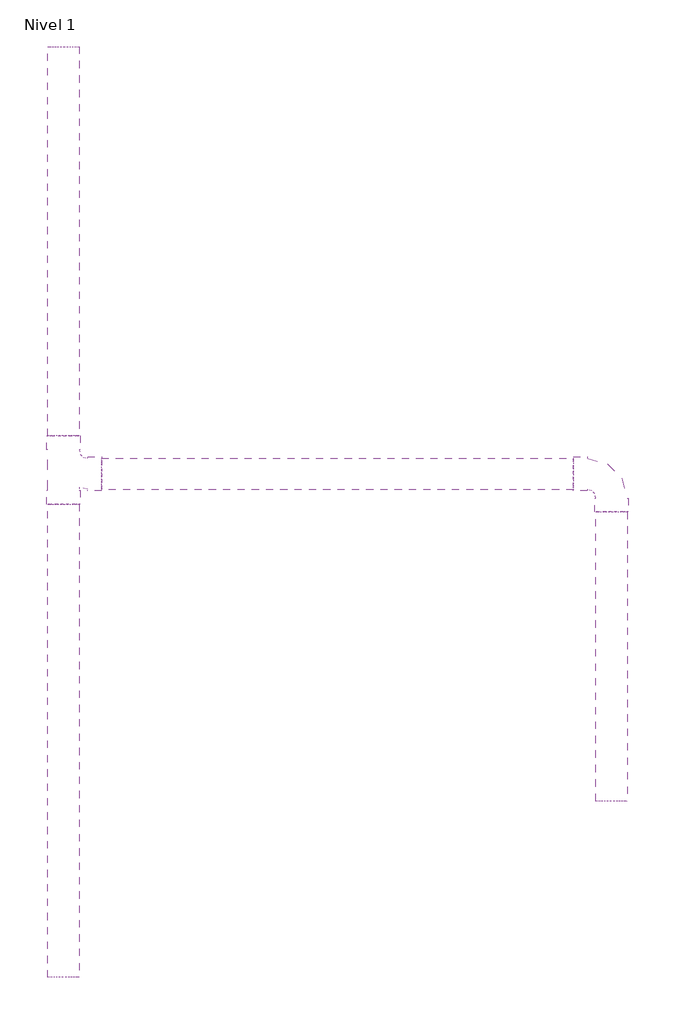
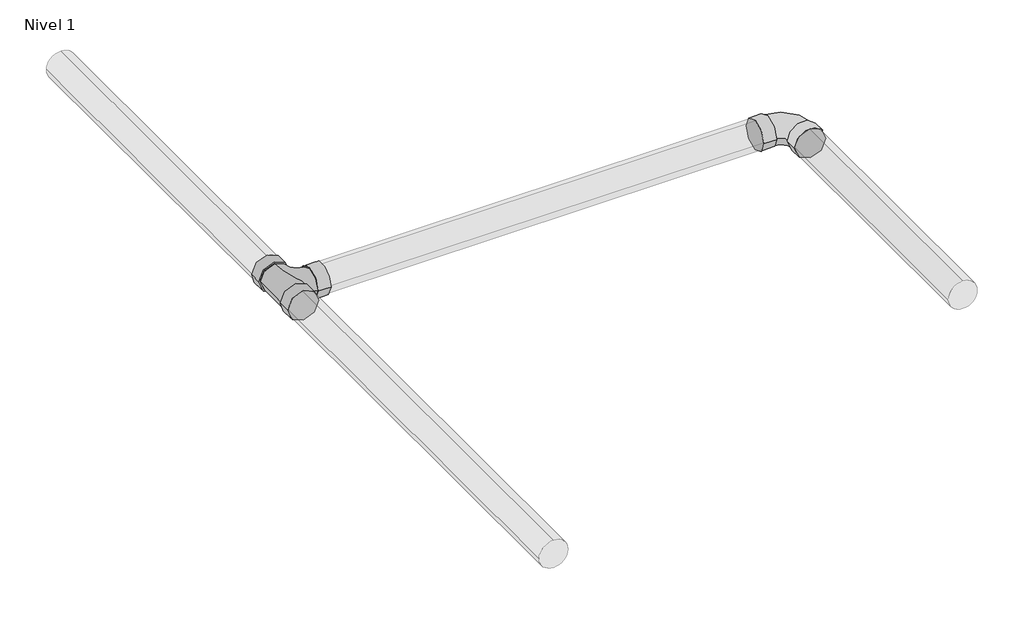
# One storey: 4 pipe segments, 2 pipe fittings.
"""IFC4 building model written with IfcOpenShell, lengths in millimetres."""

from ifc_helpers import new_model, si_unit, point, frame, frame_2d, origin, place, context, project, spatial, circle_curve, trimmed, segment, composite_curve, outline, extrude, transform, mapped, element, save
from components import m_codo_pvc_serie_40_dwv_fd45ffc9, m_sanitario_con_te_pvc_serie_40_dwv_ccfb513b

model = new_model("IFC4")

# Units and contexts
model_context = context("Model", 3, world=origin())
ifc_project = project(units=[si_unit("LENGTHUNIT", "METRE", prefix="MILLI")], contexts=[model_context])

# Site, building, storey
site = spatial("IfcSite", under=ifc_project)
building = spatial("IfcBuilding", under=site)
storey = spatial("IfcBuildingStorey", under=building, Name="Nivel 1", Elevation=0.0)

# Pipe fittings
placement = place(None, origin())
m_codo_pvc_serie_40_dwv_shape = m_codo_pvc_serie_40_dwv_fd45ffc9(model_context)
element("IfcPipeFitting", 1, ObjectType="M_Codo - PVC - Serie 40 - DWV : Estándar", at=placement, inside=storey, context=model_context, shape_type="MappedRepresentation", body=[
    mapped(m_codo_pvc_serie_40_dwv_shape, transform((1003.4756098, 1791.5462995, 2750.0), x_axis=(0.0, 1.0, 0.0), y_axis=(-1.0, 0.0, 0.0), z_axis=(0.0, 0.0, 1.0))),
])
m_sanitario_con_te_pvc_serie_40_dwv_shape = m_sanitario_con_te_pvc_serie_40_dwv_ccfb513b(model_context)
element("IfcPipeFitting", 2, ObjectType="M_Sanitario con te - PVC - Serie 40 - DWV : Estándar", at=placement, inside=storey, context=model_context, shape_type="MappedRepresentation", body=[
    mapped(m_sanitario_con_te_pvc_serie_40_dwv_shape, transform((-1176.5243902, 1791.5462995, 2750.0), x_axis=(0.0, -1.0, 0.0), y_axis=(-1.0, 0.0, 0.0), z_axis=(0.0, 0.0, -1.0))),
])

# Pipe segments
element("IfcPipeSegment", 3, ObjectType="PVC", at=placement, inside=storey, context=model_context, shape_type="SweptSolid", body=[
    extrude(outline(composite_curve([segment(trimmed(circle_curve(frame_2d((2750.0, -1176.5243902)), 62.865), [point((2750.0, -1113.6593902))], [point((2812.865, -1176.5243902))], False, "CARTESIAN"), True, "CONTINUOUS"), segment(trimmed(circle_curve(frame_2d((2750.0, -1176.5243902)), 62.865), [point((2812.865, -1176.5243902))], [point((2750.0, -1239.3893902))], False, "CARTESIAN"), True, "CONTINUOUS"), segment(trimmed(circle_curve(frame_2d((2750.0, -1176.5243902)), 62.865), [point((2750.0, -1239.3893902))], [point((2687.135, -1176.5243902))], False, "CARTESIAN"), True, "CONTINUOUS"), segment(trimmed(circle_curve(frame_2d((2750.0, -1176.5243902)), 62.865), [point((2687.135, -1176.5243902))], [point((2750.0, -1113.6593902))], False, "CARTESIAN"), True, "CONTINUOUS")], self_intersect=False)), frame((0.0, 1942.760362, 0.0), z_axis=(0.0, 1.0, 0.0), x_axis=(0.0, 0.0, 1.0)), (0.0, 0.0, 1.0), 1547.4835404),
])
element("IfcPipeSegment", 4, ObjectType="PVC", at=placement, inside=storey, context=model_context, shape_type="SweptSolid", body=[
    extrude(outline(composite_curve([segment(trimmed(circle_curve(frame_2d((1791.5462995, 2750.0)), 62.865), [point((1728.6812995, 2750.0))], [point((1791.5462995, 2812.865))], False, "CARTESIAN"), True, "CONTINUOUS"), segment(trimmed(circle_curve(frame_2d((1791.5462995, 2750.0)), 62.865), [point((1791.5462995, 2812.865))], [point((1854.4112995, 2750.0))], False, "CARTESIAN"), True, "CONTINUOUS"), segment(trimmed(circle_curve(frame_2d((1791.5462995, 2750.0)), 62.865), [point((1854.4112995, 2750.0))], [point((1791.5462995, 2687.135))], False, "CARTESIAN"), True, "CONTINUOUS"), segment(trimmed(circle_curve(frame_2d((1791.5462995, 2750.0)), 62.865), [point((1791.5462995, 2687.135))], [point((1728.6812995, 2750.0))], False, "CARTESIAN"), True, "CONTINUOUS")], self_intersect=False)), frame((-1025.3103277, 0.0, 0.0), z_axis=(1.0, 0.0, 0.0), x_axis=(0.0, 1.0, 0.0)), (0.0, 0.0, 1.0), 1877.571875),
])
element("IfcPipeSegment", 5, ObjectType="PVC", at=placement, inside=storey, context=model_context, shape_type="SweptSolid", body=[
    extrude(outline(composite_curve([segment(trimmed(circle_curve(frame_2d((2750.0, -1176.5243902)), 62.865), [point((2750.0, -1113.6593902))], [point((2812.865, -1176.5243902))], False, "CARTESIAN"), True, "CONTINUOUS"), segment(trimmed(circle_curve(frame_2d((2750.0, -1176.5243902)), 62.865), [point((2812.865, -1176.5243902))], [point((2750.0, -1239.3893902))], False, "CARTESIAN"), True, "CONTINUOUS"), segment(trimmed(circle_curve(frame_2d((2750.0, -1176.5243902)), 62.865), [point((2750.0, -1239.3893902))], [point((2687.135, -1176.5243902))], False, "CARTESIAN"), True, "CONTINUOUS"), segment(trimmed(circle_curve(frame_2d((2750.0, -1176.5243902)), 62.865), [point((2687.135, -1176.5243902))], [point((2750.0, -1113.6593902))], False, "CARTESIAN"), True, "CONTINUOUS")], self_intersect=False)), frame((0.0, -209.7560976, 0.0), z_axis=(0.0, 1.0, 0.0), x_axis=(0.0, 0.0, 1.0)), (0.0, 0.0, 1.0), 1881.4367721),
])
element("IfcPipeSegment", 6, ObjectType="PVC", at=placement, inside=storey, context=model_context, shape_type="SweptSolid", body=[
    extrude(outline(composite_curve([segment(trimmed(circle_curve(frame_2d((2750.0, 1003.4756098)), 62.865), [point((2750.0, 940.6106098))], [point((2687.135, 1003.4756098))], False, "CARTESIAN"), True, "CONTINUOUS"), segment(trimmed(circle_curve(frame_2d((2750.0, 1003.4756098)), 62.865), [point((2687.135, 1003.4756098))], [point((2750.0, 1066.3406098))], False, "CARTESIAN"), True, "CONTINUOUS"), segment(trimmed(circle_curve(frame_2d((2750.0, 1003.4756098)), 62.865), [point((2750.0, 1066.3406098))], [point((2812.865, 1003.4756098))], False, "CARTESIAN"), True, "CONTINUOUS"), segment(trimmed(circle_curve(frame_2d((2750.0, 1003.4756098)), 62.865), [point((2812.865, 1003.4756098))], [point((2750.0, 940.6106098))], False, "CARTESIAN"), True, "CONTINUOUS")], self_intersect=False)), frame((0.0, 491.5462995, 0.0), z_axis=(0.0, 1.0, 0.0), x_axis=(0.0, 0.0, 1.0)), (0.0, 0.0, 1.0), 1148.7859375),
])

save(model, "model.ifc")
